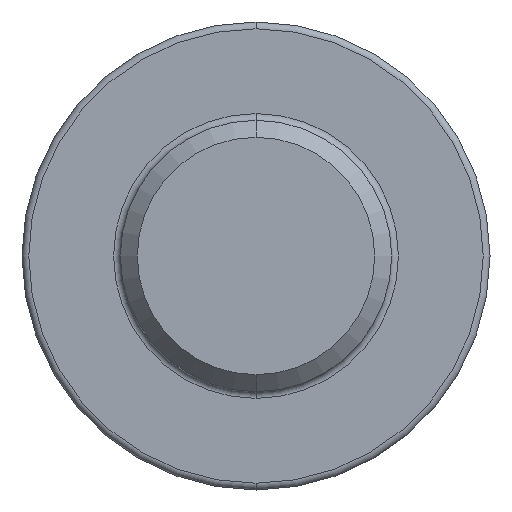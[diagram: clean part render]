
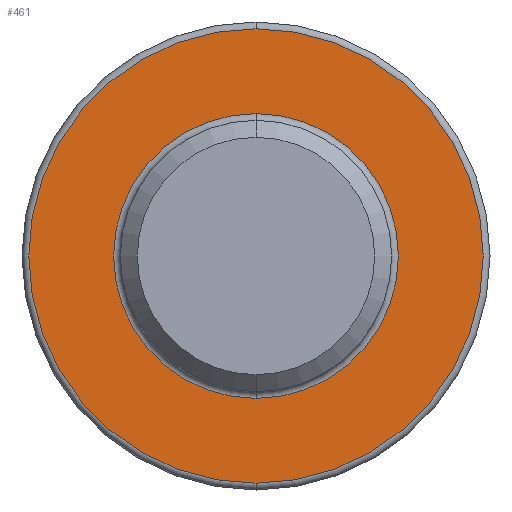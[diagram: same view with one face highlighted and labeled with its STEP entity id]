
A CAD part, front view. The second image highlights one B-rep face of the part: STEP entity #461.
In plain terms, the highlighted planar face has unit normal (0, -1, 0).
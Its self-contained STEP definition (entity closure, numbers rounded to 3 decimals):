
#14 = DIRECTION ( 'NONE',  ( 0., 0., 1. ) ) ;
#96 = AXIS2_PLACEMENT_3D ( 'NONE', #745, #347, #14 ) ;
#97 = FACE_OUTER_BOUND ( 'NONE', #312, .T. ) ;
#147 = DIRECTION ( 'NONE',  ( 0., 1., 0. ) ) ;
#169 = DIRECTION ( 'NONE',  ( 0., 0., 1. ) ) ;
#187 = CARTESIAN_POINT ( 'NONE',  ( 0., -4.2, 4.2 ) ) ;
#219 = AXIS2_PLACEMENT_3D ( 'NONE', #702, #448, #169 ) ;
#235 = FACE_BOUND ( 'NONE', #560, .T. ) ;
#266 = ORIENTED_EDGE ( 'NONE', *, *, #785, .T. ) ;
#278 = CARTESIAN_POINT ( 'NONE',  ( 0., -4.2, 0. ) ) ;
#286 = DIRECTION ( 'NONE',  ( 0., 1., 0. ) ) ;
#312 = EDGE_LOOP ( 'NONE', ( #813, #266 ) ) ;
#347 = DIRECTION ( 'NONE',  ( 0., -1., 0. ) ) ;
#355 = CIRCLE ( 'NONE', #96, 6.7 ) ;
#361 = CARTESIAN_POINT ( 'NONE',  ( 0., -4.2, 0. ) ) ;
#372 = VERTEX_POINT ( 'NONE', #752 ) ;
#378 = AXIS2_PLACEMENT_3D ( 'NONE', #361, #543, #429 ) ;
#380 = CARTESIAN_POINT ( 'NONE',  ( 0., -4.2, -6.7 ) ) ;
#385 = PLANE ( 'NONE',  #219 ) ;
#386 = EDGE_CURVE ( 'NONE', #372, #450, #526, .T. ) ;
#415 = DIRECTION ( 'NONE',  ( 0., 0., 1. ) ) ;
#429 = DIRECTION ( 'NONE',  ( 0., 0., 1. ) ) ;
#438 = ORIENTED_EDGE ( 'NONE', *, *, #771, .T. ) ;
#448 = DIRECTION ( 'NONE',  ( 0., 1., 0. ) ) ;
#450 = VERTEX_POINT ( 'NONE', #380 ) ;
#461 = ADVANCED_FACE ( 'NONE', ( #235, #97 ), #385, .F. ) ;
#479 = VERTEX_POINT ( 'NONE', #712 ) ;
#492 = ORIENTED_EDGE ( 'NONE', *, *, #806, .T. ) ;
#516 = CIRCLE ( 'NONE', #854, 4.2 ) ;
#526 = CIRCLE ( 'NONE', #378, 6.7 ) ;
#543 = DIRECTION ( 'NONE',  ( 0., -1., 0. ) ) ;
#560 = EDGE_LOOP ( 'NONE', ( #492, #438 ) ) ;
#585 = AXIS2_PLACEMENT_3D ( 'NONE', #278, #147, #415 ) ;
#609 = CARTESIAN_POINT ( 'NONE',  ( 0., -4.2, 0. ) ) ;
#669 = VERTEX_POINT ( 'NONE', #187 ) ;
#702 = CARTESIAN_POINT ( 'NONE',  ( 4., -4.2, 0. ) ) ;
#712 = CARTESIAN_POINT ( 'NONE',  ( 0., -4.2, -4.2 ) ) ;
#745 = CARTESIAN_POINT ( 'NONE',  ( 0., -4.2, 0. ) ) ;
#752 = CARTESIAN_POINT ( 'NONE',  ( 0., -4.2, 6.7 ) ) ;
#771 = EDGE_CURVE ( 'NONE', #479, #669, #516, .T. ) ;
#785 = EDGE_CURVE ( 'NONE', #450, #372, #355, .T. ) ;
#805 = DIRECTION ( 'NONE',  ( 0., 0., 1. ) ) ;
#806 = EDGE_CURVE ( 'NONE', #669, #479, #841, .T. ) ;
#813 = ORIENTED_EDGE ( 'NONE', *, *, #386, .T. ) ;
#841 = CIRCLE ( 'NONE', #585, 4.2 ) ;
#854 = AXIS2_PLACEMENT_3D ( 'NONE', #609, #286, #805 ) ;
